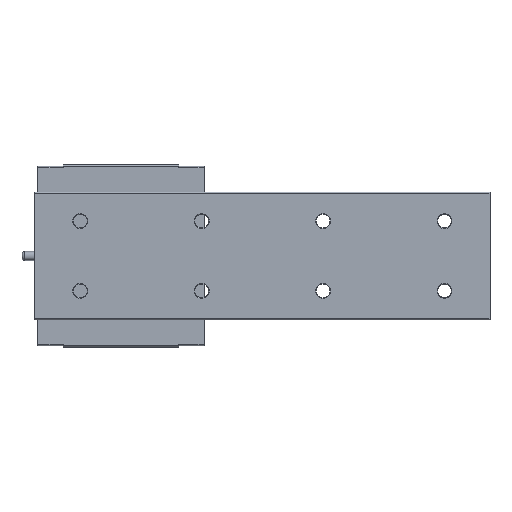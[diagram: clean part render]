
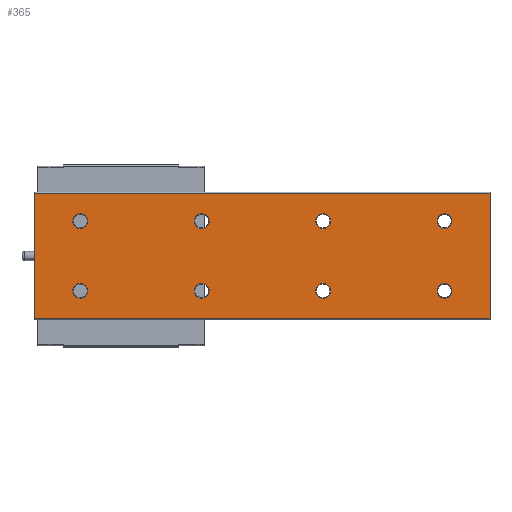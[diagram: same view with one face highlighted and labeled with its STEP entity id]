
A CAD part, front view. The second image highlights one B-rep face of the part: STEP entity #365.
In plain terms, the highlighted planar face has unit normal (0, -1, 0).
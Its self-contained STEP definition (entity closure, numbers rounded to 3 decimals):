
#365 = ADVANCED_FACE( '', ( #783, #784, #785, #786, #787, #788, #789, #790, #791 ), #792, .F. );
#783 = FACE_BOUND( '', #1273, .T. );
#784 = FACE_BOUND( '', #1274, .T. );
#785 = FACE_BOUND( '', #1275, .T. );
#786 = FACE_BOUND( '', #1276, .T. );
#787 = FACE_BOUND( '', #1277, .T. );
#788 = FACE_BOUND( '', #1278, .T. );
#789 = FACE_BOUND( '', #1279, .T. );
#790 = FACE_BOUND( '', #1280, .T. );
#791 = FACE_OUTER_BOUND( '', #1281, .T. );
#792 = PLANE( '', #1282 );
#1273 = EDGE_LOOP( '', ( #2139 ) );
#1274 = EDGE_LOOP( '', ( #2140 ) );
#1275 = EDGE_LOOP( '', ( #2141 ) );
#1276 = EDGE_LOOP( '', ( #2142 ) );
#1277 = EDGE_LOOP( '', ( #2143 ) );
#1278 = EDGE_LOOP( '', ( #2144 ) );
#1279 = EDGE_LOOP( '', ( #2145 ) );
#1280 = EDGE_LOOP( '', ( #2146 ) );
#1281 = EDGE_LOOP( '', ( #2147, #2148, #2149, #2150 ) );
#1282 = AXIS2_PLACEMENT_3D( '', #2151, #2152, #2153 );
#2139 = ORIENTED_EDGE( '', *, *, #2621, .F. );
#2140 = ORIENTED_EDGE( '', *, *, #2923, .F. );
#2141 = ORIENTED_EDGE( '', *, *, #2682, .F. );
#2142 = ORIENTED_EDGE( '', *, *, #2811, .F. );
#2143 = ORIENTED_EDGE( '', *, *, #2660, .F. );
#2144 = ORIENTED_EDGE( '', *, *, #2924, .F. );
#2145 = ORIENTED_EDGE( '', *, *, #2925, .F. );
#2146 = ORIENTED_EDGE( '', *, *, #2926, .F. );
#2147 = ORIENTED_EDGE( '', *, *, #2856, .T. );
#2148 = ORIENTED_EDGE( '', *, *, #2844, .F. );
#2149 = ORIENTED_EDGE( '', *, *, #2876, .F. );
#2150 = ORIENTED_EDGE( '', *, *, #2678, .T. );
#2151 = CARTESIAN_POINT( '', ( 150., 0., 20.7 ) );
#2152 = DIRECTION( '', ( 0., 1., 0. ) );
#2153 = DIRECTION( '', ( 0., 0., 1. ) );
#2621 = EDGE_CURVE( '', #3065, #3065, #3066, .T. );
#2660 = EDGE_CURVE( '', #3133, #3133, #3134, .T. );
#2678 = EDGE_CURVE( '', #3165, #3163, #3166, .T. );
#2682 = EDGE_CURVE( '', #3171, #3171, #3172, .T. );
#2811 = EDGE_CURVE( '', #3381, #3381, #3382, .T. );
#2844 = EDGE_CURVE( '', #3432, #3430, #3434, .T. );
#2856 = EDGE_CURVE( '', #3163, #3430, #3450, .T. );
#2876 = EDGE_CURVE( '', #3165, #3432, #3476, .T. );
#2923 = EDGE_CURVE( '', #3541, #3541, #3542, .T. );
#2924 = EDGE_CURVE( '', #3543, #3543, #3544, .T. );
#2925 = EDGE_CURVE( '', #3545, #3545, #3546, .T. );
#2926 = EDGE_CURVE( '', #3547, #3547, #3548, .T. );
#3065 = VERTEX_POINT( '', #3722 );
#3066 = CIRCLE( '', #3723, 2.455 );
#3133 = VERTEX_POINT( '', #3813 );
#3134 = CIRCLE( '', #3814, 2.455 );
#3163 = VERTEX_POINT( '', #3854 );
#3165 = VERTEX_POINT( '', #3857 );
#3166 = LINE( '', #3858, #3859 );
#3171 = VERTEX_POINT( '', #3866 );
#3172 = CIRCLE( '', #3867, 2.455 );
#3381 = VERTEX_POINT( '', #4137 );
#3382 = CIRCLE( '', #4138, 2.455 );
#3430 = VERTEX_POINT( '', #4195 );
#3432 = VERTEX_POINT( '', #4198 );
#3434 = LINE( '', #4201, #4202 );
#3450 = LINE( '', #4224, #4225 );
#3476 = LINE( '', #4260, #4261 );
#3541 = VERTEX_POINT( '', #4350 );
#3542 = CIRCLE( '', #4351, 2.455 );
#3543 = VERTEX_POINT( '', #4352 );
#3544 = CIRCLE( '', #4353, 2.455 );
#3545 = VERTEX_POINT( '', #4354 );
#3546 = CIRCLE( '', #4355, 2.455 );
#3547 = VERTEX_POINT( '', #4356 );
#3548 = CIRCLE( '', #4357, 2.455 );
#3722 = CARTESIAN_POINT( '', ( 15., 0., -13.955 ) );
#3723 = AXIS2_PLACEMENT_3D( '', #4515, #4516, #4517 );
#3813 = CARTESIAN_POINT( '', ( 15., 0., 9.045 ) );
#3814 = AXIS2_PLACEMENT_3D( '', #4559, #4560, #4561 );
#3854 = CARTESIAN_POINT( '', ( 0., 0., 20.7 ) );
#3857 = CARTESIAN_POINT( '', ( 150., 0., 20.7 ) );
#3858 = CARTESIAN_POINT( '', ( 150., 0., 20.7 ) );
#3859 = VECTOR( '', #4577, 1000. );
#3866 = CARTESIAN_POINT( '', ( 135., 0., -13.955 ) );
#3867 = AXIS2_PLACEMENT_3D( '', #4580, #4581, #4582 );
#4137 = CARTESIAN_POINT( '', ( 55., 0., -13.955 ) );
#4138 = AXIS2_PLACEMENT_3D( '', #4746, #4747, #4748 );
#4195 = CARTESIAN_POINT( '', ( 0., 0., -20.7 ) );
#4198 = CARTESIAN_POINT( '', ( 150., 0., -20.7 ) );
#4201 = CARTESIAN_POINT( '', ( 150., 0., -20.7 ) );
#4202 = VECTOR( '', #4796, 1000. );
#4224 = CARTESIAN_POINT( '', ( 0., 0., 20.7 ) );
#4225 = VECTOR( '', #4812, 1000. );
#4260 = CARTESIAN_POINT( '', ( 150., 0., 20.7 ) );
#4261 = VECTOR( '', #4837, 1000. );
#4350 = CARTESIAN_POINT( '', ( 95., 0., -13.955 ) );
#4351 = AXIS2_PLACEMENT_3D( '', #4886, #4887, #4888 );
#4352 = CARTESIAN_POINT( '', ( 95., 0., 9.045 ) );
#4353 = AXIS2_PLACEMENT_3D( '', #4889, #4890, #4891 );
#4354 = CARTESIAN_POINT( '', ( 135., 0., 9.045 ) );
#4355 = AXIS2_PLACEMENT_3D( '', #4892, #4893, #4894 );
#4356 = CARTESIAN_POINT( '', ( 55., 0., 9.045 ) );
#4357 = AXIS2_PLACEMENT_3D( '', #4895, #4896, #4897 );
#4515 = CARTESIAN_POINT( '', ( 15., 0., -11.5 ) );
#4516 = DIRECTION( '', ( 0., -1., 0. ) );
#4517 = DIRECTION( '', ( 0., 0., -1. ) );
#4559 = CARTESIAN_POINT( '', ( 15., 0., 11.5 ) );
#4560 = DIRECTION( '', ( 0., -1., 0. ) );
#4561 = DIRECTION( '', ( 0., 0., -1. ) );
#4577 = DIRECTION( '', ( -1., 0., 0. ) );
#4580 = CARTESIAN_POINT( '', ( 135., 0., -11.5 ) );
#4581 = DIRECTION( '', ( 0., -1., 0. ) );
#4582 = DIRECTION( '', ( 0., 0., -1. ) );
#4746 = CARTESIAN_POINT( '', ( 55., 0., -11.5 ) );
#4747 = DIRECTION( '', ( 0., -1., 0. ) );
#4748 = DIRECTION( '', ( 0., 0., -1. ) );
#4796 = DIRECTION( '', ( -1., 0., 0. ) );
#4812 = DIRECTION( '', ( 0., 0., -1. ) );
#4837 = DIRECTION( '', ( 0., 0., -1. ) );
#4886 = CARTESIAN_POINT( '', ( 95., 0., -11.5 ) );
#4887 = DIRECTION( '', ( 0., -1., 0. ) );
#4888 = DIRECTION( '', ( 0., 0., -1. ) );
#4889 = CARTESIAN_POINT( '', ( 95., 0., 11.5 ) );
#4890 = DIRECTION( '', ( 0., -1., 0. ) );
#4891 = DIRECTION( '', ( 0., 0., -1. ) );
#4892 = CARTESIAN_POINT( '', ( 135., 0., 11.5 ) );
#4893 = DIRECTION( '', ( 0., -1., 0. ) );
#4894 = DIRECTION( '', ( 0., 0., -1. ) );
#4895 = CARTESIAN_POINT( '', ( 55., 0., 11.5 ) );
#4896 = DIRECTION( '', ( 0., -1., 0. ) );
#4897 = DIRECTION( '', ( 0., 0., -1. ) );
